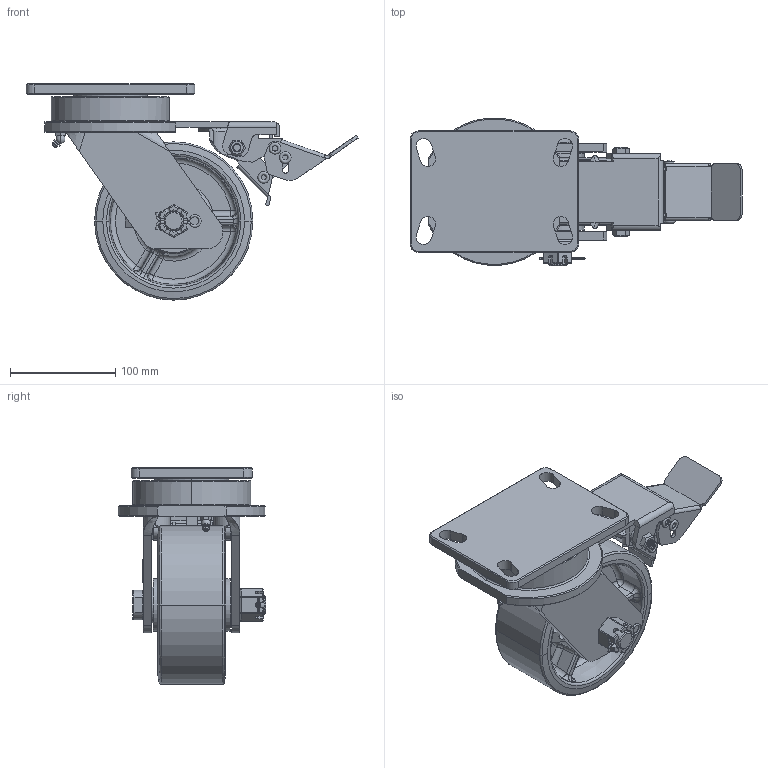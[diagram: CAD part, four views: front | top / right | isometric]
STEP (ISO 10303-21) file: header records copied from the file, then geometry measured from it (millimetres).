
FILE_DESCRIPTION(/* description */ (''),/* implementation_level */ '2;1');
FILE_NAME(/* name */ '40A27_6_F.stp',/* time_stamp */ '2022-08-29T10:12:27+08:00',/* author */ (''),/* organization */ (''),/* preprocessor_version */ 'ST-DEVELOPER v14',/* originating_system */ 'SIEMENS PLM Software NX 8.0',/* authorisation */ '');
FILE_SCHEMA (('AUTOMOTIVE_DESIGN { 1 0 10303 214 3 1 1 1 }'));
Length unit declared in the file: millimetre
Products named in the file (1): 40A27_6_F
Bounding box: 314.75 x 140 x 205 mm (x, y, z)
Volume: 1518689.4 mm3; surface area: 292076.6 mm2
Topology: 1 solids, 2 shells, 911 faces, 2367 edges, 1468 vertices
Faces by surface type: plane 440, cylinder 271, torus 64, sphere 47, cone 43, bspline 42, extrusion 4
Full cylindrical faces by diameter (mm): 5 x3, 5.9 x1, 6 x2, 6.2 x3, 6.3 x4, 8.2 x6, 8.5 x2, 10 x2, 16 x2, 39 x1
Entity records: 31473 total; most frequent: CARTESIAN_POINT 10353, ORIENTED_EDGE 4516, DIRECTION 4131, EDGE_CURVE 2258, AXIS2_PLACEMENT_3D 1540, VERTEX_POINT 1446, VECTOR 1051, EDGE_LOOP 1050
